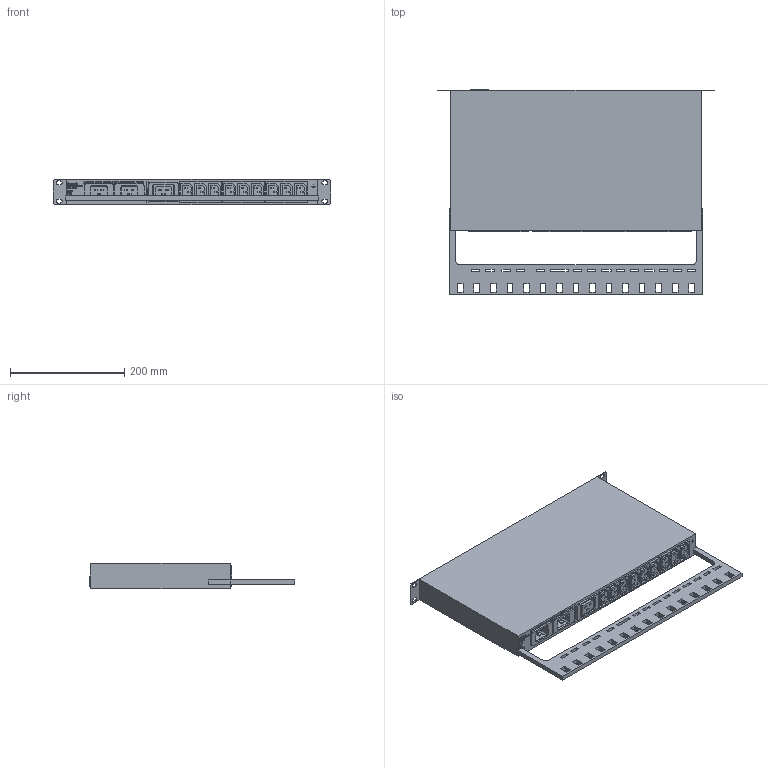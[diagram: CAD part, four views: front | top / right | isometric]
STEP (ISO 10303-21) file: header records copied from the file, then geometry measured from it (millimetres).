
FILE_DESCRIPTION(('STEP AP203'), '1');
FILE_NAME('ATS-1204', '', ('UNSPECIFIED'), ('UNSPECIFIED'), 'ASCON STEP Converter 1.6', 'ASCON Math Kernel', '');
FILE_SCHEMA(('CONFIG_CONTROL_DESIGN'));
Length unit declared in the file: millimetre
Assembly tree (2 placements, depth 2):
  (unnamed)
    (unnamed)
    (unnamed)
Bounding box: 486 x 360.5 x 43.9 mm (x, y, z)
Volume: 4836331.6 mm3; surface area: 436666.5 mm2
Topology: 19 solids, 19 shells, 4516 faces, 12399 edges, 8256 vertices
Faces by surface type: plane 2425, extrusion 1191, cylinder 900
Full cylindrical faces by diameter (mm): 2 x2, 4 x6
Entity records: 191125 total; most frequent: CARTESIAN_POINT 42527, ORIENTED_EDGE 24782, DIRECTION 19668, EDGE_CURVE 12391, VECTOR 9388, VERTEX_POINT 8256, LINE 8197, AXIS2_PLACEMENT_3D 5140
